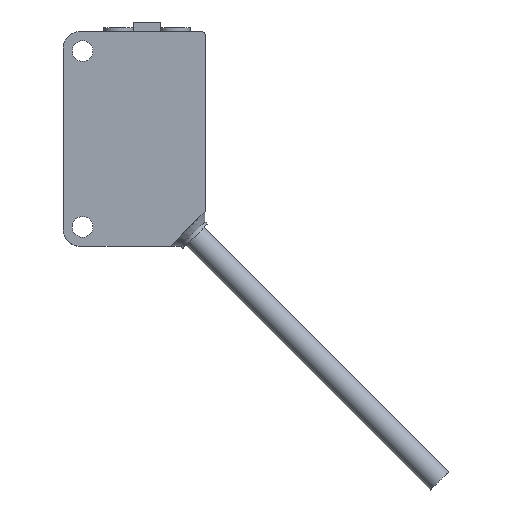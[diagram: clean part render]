
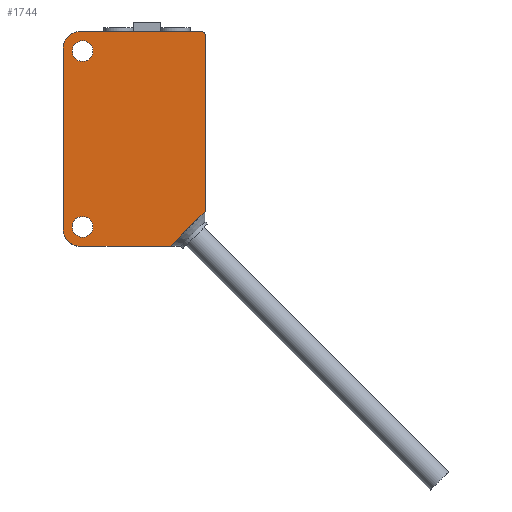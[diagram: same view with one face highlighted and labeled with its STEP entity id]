
A CAD part, top view. The second image highlights one B-rep face of the part: STEP entity #1744.
In plain terms, the highlighted planar face has unit normal (0, 0, 1).
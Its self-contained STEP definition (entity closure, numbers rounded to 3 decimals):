
#16 = AXIS2_PLACEMENT_3D ( 'NONE', #952, #1607, #1953 ) ;
#51 = ORIENTED_EDGE ( 'NONE', *, *, #532, .T. ) ;
#56 = CARTESIAN_POINT ( 'NONE',  ( 12.725, -12.725, 5.6 ) ) ;
#58 = EDGE_CURVE ( 'NONE', #877, #2088, #1547, .T. ) ;
#69 = FACE_BOUND ( 'NONE', #1403, .T. ) ;
#91 = FACE_OUTER_BOUND ( 'NONE', #263, .T. ) ;
#93 = DIRECTION ( 'NONE',  ( 1., 0., 0. ) ) ;
#106 = DIRECTION ( 'NONE',  ( 1., 0., 0. ) ) ;
#123 = DIRECTION ( 'NONE',  ( 0., 1., 0. ) ) ;
#127 = DIRECTION ( 'NONE',  ( 0., -1., 0. ) ) ;
#150 = VECTOR ( 'NONE', #1420, 1000. ) ;
#168 = CIRCLE ( 'NONE', #1312, 1.5 ) ;
#249 = DIRECTION ( 'NONE',  ( 1., 0., 0. ) ) ;
#251 = EDGE_CURVE ( 'NONE', #2084, #1019, #1872, .T. ) ;
#260 = ORIENTED_EDGE ( 'NONE', *, *, #1372, .T. ) ;
#263 = EDGE_LOOP ( 'NONE', ( #2012, #260, #272, #961, #2005, #308, #1103, #51 ) ) ;
#268 = VERTEX_POINT ( 'NONE', #1664 ) ;
#272 = ORIENTED_EDGE ( 'NONE', *, *, #251, .T. ) ;
#273 = CARTESIAN_POINT ( 'NONE',  ( 4.3, 18.25, 5.6 ) ) ;
#278 = CARTESIAN_POINT ( 'NONE',  ( 0., -7.55, 5.6 ) ) ;
#285 = ORIENTED_EDGE ( 'NONE', *, *, #634, .F. ) ;
#308 = ORIENTED_EDGE ( 'NONE', *, *, #780, .T. ) ;
#384 = AXIS2_PLACEMENT_3D ( 'NONE', #2149, #633, #106 ) ;
#400 = CIRCLE ( 'NONE', #1858, 1.5 ) ;
#402 = CARTESIAN_POINT ( 'NONE',  ( 2.4, -9.95, 5.6 ) ) ;
#467 = CARTESIAN_POINT ( 'NONE',  ( 0., 21.05, 5.6 ) ) ;
#521 = VERTEX_POINT ( 'NONE', #1931 ) ;
#530 = CARTESIAN_POINT ( 'NONE',  ( 2.4, -7.55, 5.6 ) ) ;
#531 = EDGE_LOOP ( 'NONE', ( #1354, #285 ) ) ;
#532 = EDGE_CURVE ( 'NONE', #1160, #2128, #914, .T. ) ;
#547 = AXIS2_PLACEMENT_3D ( 'NONE', #530, #1213, #1886 ) ;
#548 = VERTEX_POINT ( 'NONE', #402 ) ;
#573 = DIRECTION ( 'NONE',  ( 0., 0., 1. ) ) ;
#621 = EDGE_CURVE ( 'NONE', #1019, #2138, #624, .T. ) ;
#624 = CIRCLE ( 'NONE', #1754, 2.4 ) ;
#633 = DIRECTION ( 'NONE',  ( 0., 0., 1. ) ) ;
#634 = EDGE_CURVE ( 'NONE', #2088, #877, #400, .T. ) ;
#650 = LINE ( 'NONE', #1954, #1080 ) ;
#675 = DIRECTION ( 'NONE',  ( 0., 0., 1. ) ) ;
#725 = AXIS2_PLACEMENT_3D ( 'NONE', #757, #1777, #1433 ) ;
#757 = CARTESIAN_POINT ( 'NONE',  ( 0., 0., 5.6 ) ) ;
#775 = CARTESIAN_POINT ( 'NONE',  ( 1.3, 18.25, 5.6 ) ) ;
#780 = EDGE_CURVE ( 'NONE', #1461, #548, #1431, .T. ) ;
#820 = VECTOR ( 'NONE', #1034, 1000. ) ;
#824 = DIRECTION ( 'NONE',  ( 1., 0., 0. ) ) ;
#846 = CARTESIAN_POINT ( 'NONE',  ( 2.8, 18.25, 5.6 ) ) ;
#877 = VERTEX_POINT ( 'NONE', #273 ) ;
#889 = AXIS2_PLACEMENT_3D ( 'NONE', #1780, #573, #249 ) ;
#914 = LINE ( 'NONE', #56, #150 ) ;
#952 = CARTESIAN_POINT ( 'NONE',  ( 2.8, 18.25, 5.6 ) ) ;
#961 = ORIENTED_EDGE ( 'NONE', *, *, #621, .T. ) ;
#986 = CARTESIAN_POINT ( 'NONE',  ( 2.8, -7.15, 5.6 ) ) ;
#994 = CIRCLE ( 'NONE', #889, 1.5 ) ;
#995 = EDGE_CURVE ( 'NONE', #1165, #268, #168, .T. ) ;
#1019 = VERTEX_POINT ( 'NONE', #1326 ) ;
#1034 = DIRECTION ( 'NONE',  ( -1., 0., 0. ) ) ;
#1080 = VECTOR ( 'NONE', #123, 1000. ) ;
#1103 = ORIENTED_EDGE ( 'NONE', *, *, #1280, .T. ) ;
#1113 = CARTESIAN_POINT ( 'NONE',  ( 20., 21.05, 5.6 ) ) ;
#1160 = VERTEX_POINT ( 'NONE', #1406 ) ;
#1165 = VERTEX_POINT ( 'NONE', #1367 ) ;
#1172 = CIRCLE ( 'NONE', #384, 0.5 ) ;
#1173 = LINE ( 'NONE', #1831, #2065 ) ;
#1200 = ORIENTED_EDGE ( 'NONE', *, *, #1344, .F. ) ;
#1213 = DIRECTION ( 'NONE',  ( 0., 0., 1. ) ) ;
#1260 = CARTESIAN_POINT ( 'NONE',  ( 0., -9.95, 5.6 ) ) ;
#1280 = EDGE_CURVE ( 'NONE', #548, #1160, #1759, .T. ) ;
#1312 = AXIS2_PLACEMENT_3D ( 'NONE', #986, #675, #1511 ) ;
#1326 = CARTESIAN_POINT ( 'NONE',  ( 2.4, 21.05, 5.6 ) ) ;
#1344 = EDGE_CURVE ( 'NONE', #268, #1165, #994, .T. ) ;
#1354 = ORIENTED_EDGE ( 'NONE', *, *, #58, .F. ) ;
#1367 = CARTESIAN_POINT ( 'NONE',  ( 4.3, -7.15, 5.6 ) ) ;
#1372 = EDGE_CURVE ( 'NONE', #521, #2084, #1172, .T. ) ;
#1403 = EDGE_LOOP ( 'NONE', ( #1688, #1200 ) ) ;
#1406 = CARTESIAN_POINT ( 'NONE',  ( 15.5, -9.95, 5.6 ) ) ;
#1420 = DIRECTION ( 'NONE',  ( 0.707, 0.707, 0. ) ) ;
#1431 = CIRCLE ( 'NONE', #547, 2.4 ) ;
#1433 = DIRECTION ( 'NONE',  ( 1., 0., 0. ) ) ;
#1457 = PLANE ( 'NONE',  #725 ) ;
#1461 = VERTEX_POINT ( 'NONE', #278 ) ;
#1511 = DIRECTION ( 'NONE',  ( 1., 0., 0. ) ) ;
#1514 = DIRECTION ( 'NONE',  ( 1., 0., 0. ) ) ;
#1547 = CIRCLE ( 'NONE', #16, 1.5 ) ;
#1607 = DIRECTION ( 'NONE',  ( 0., 0., 1. ) ) ;
#1623 = FACE_BOUND ( 'NONE', #531, .T. ) ;
#1664 = CARTESIAN_POINT ( 'NONE',  ( 1.3, -7.15, 5.6 ) ) ;
#1688 = ORIENTED_EDGE ( 'NONE', *, *, #995, .F. ) ;
#1744 = ADVANCED_FACE ( 'NONE', ( #1623, #69, #91 ), #1457, .T. ) ;
#1754 = AXIS2_PLACEMENT_3D ( 'NONE', #2008, #2020, #824 ) ;
#1759 = LINE ( 'NONE', #1260, #2125 ) ;
#1777 = DIRECTION ( 'NONE',  ( 0., 0., 1. ) ) ;
#1780 = CARTESIAN_POINT ( 'NONE',  ( 2.8, -7.15, 5.6 ) ) ;
#1811 = EDGE_CURVE ( 'NONE', #2138, #1461, #1173, .T. ) ;
#1829 = DIRECTION ( 'NONE',  ( 0., 0., 1. ) ) ;
#1831 = CARTESIAN_POINT ( 'NONE',  ( 0., 21.05, 5.6 ) ) ;
#1858 = AXIS2_PLACEMENT_3D ( 'NONE', #846, #1829, #1514 ) ;
#1872 = LINE ( 'NONE', #467, #820 ) ;
#1886 = DIRECTION ( 'NONE',  ( 1., 0., 0. ) ) ;
#1931 = CARTESIAN_POINT ( 'NONE',  ( 20.5, 20.55, 5.6 ) ) ;
#1953 = DIRECTION ( 'NONE',  ( 1., 0., 0. ) ) ;
#1954 = CARTESIAN_POINT ( 'NONE',  ( 20.5, 21.05, 5.6 ) ) ;
#1988 = CARTESIAN_POINT ( 'NONE',  ( 0., 18.65, 5.6 ) ) ;
#2005 = ORIENTED_EDGE ( 'NONE', *, *, #1811, .T. ) ;
#2008 = CARTESIAN_POINT ( 'NONE',  ( 2.4, 18.65, 5.6 ) ) ;
#2012 = ORIENTED_EDGE ( 'NONE', *, *, #2185, .T. ) ;
#2020 = DIRECTION ( 'NONE',  ( 0., 0., 1. ) ) ;
#2065 = VECTOR ( 'NONE', #127, 1000. ) ;
#2084 = VERTEX_POINT ( 'NONE', #1113 ) ;
#2088 = VERTEX_POINT ( 'NONE', #775 ) ;
#2125 = VECTOR ( 'NONE', #93, 1000. ) ;
#2128 = VERTEX_POINT ( 'NONE', #2143 ) ;
#2138 = VERTEX_POINT ( 'NONE', #1988 ) ;
#2143 = CARTESIAN_POINT ( 'NONE',  ( 20.5, -4.95, 5.6 ) ) ;
#2149 = CARTESIAN_POINT ( 'NONE',  ( 20., 20.55, 5.6 ) ) ;
#2185 = EDGE_CURVE ( 'NONE', #2128, #521, #650, .T. ) ;
